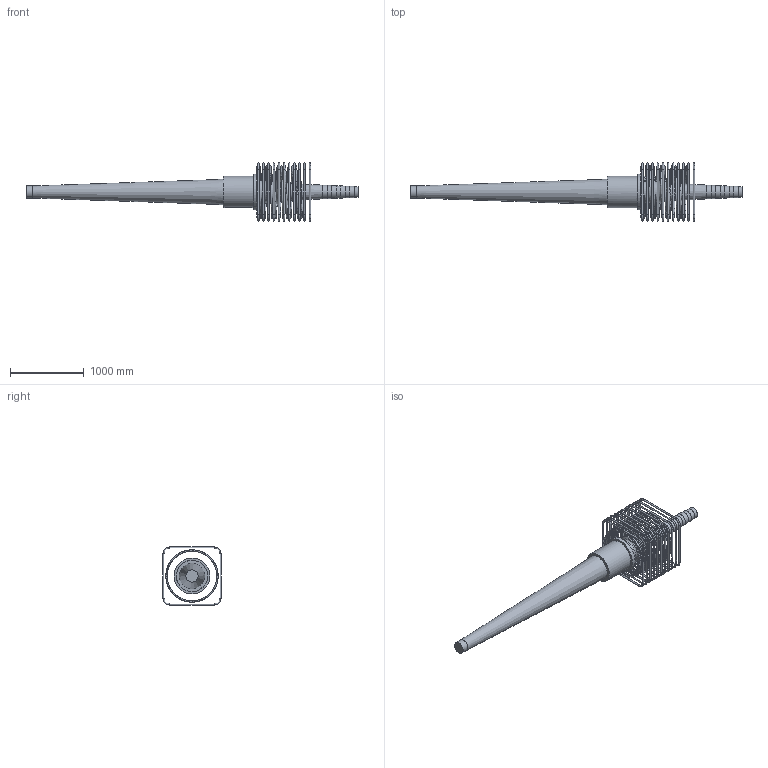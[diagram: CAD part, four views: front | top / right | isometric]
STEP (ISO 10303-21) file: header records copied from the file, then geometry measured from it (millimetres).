
FILE_DESCRIPTION(/* description */ (''),/* implementation_level */ '2;1');
FILE_NAME(/* name */ 'Z:\04 Publications\05 Give-out\BBR\6_3D_Models\BBR VT CONA CMI\BBR VT CONA CMI BT\04806\BBR VT CONA CMI BT 4806_Coupler H Assembly_CS-34,28.stp',/* time_stamp */ '2017-05-05T11:14:40+02:00',/* author */ ('IP'),/* organization */ (''),/* preprocessor_version */ 'ST-DEVELOPER v16.1',/* originating_system */ 'Autodesk Inventor 2016',/* authorisation */ '');
FILE_SCHEMA (('AUTOMOTIVE_DESIGN { 1 0 10303 214 3 1 1 }'));
Length unit declared in the file: millimetre
Products named in the file (1): BBR VT CONA CMI BT 4806_Coupler H Assembly_CS-34,28
Bounding box: 4517.36 x 790 x 790 mm (x, y, z)
Volume: 279042829.1 mm3; surface area: 7579407 mm2
Topology: 13 solids, 13 shells, 900 faces, 2325 edges, 1498 vertices
Faces by surface type: bspline 409, plane 266, cylinder 132, torus 79, cone 12, sphere 2
Full cylindrical faces by diameter (mm): 20 x44, 35 x1, 57 x1, 149 x1, 159 x1, 165 x1, 169 x1, 179 x1, 282 x1, 377 x1, 390 x1, 425 x1, 485 x1
Entity records: 42780 total; most frequent: CARTESIAN_POINT 23608, ORIENTED_EDGE 4360, DIRECTION 2765, EDGE_CURVE 2180, VERTEX_POINT 1490, EDGE_LOOP 1108, AXIS2_PLACEMENT_3D 926, LINE 913
